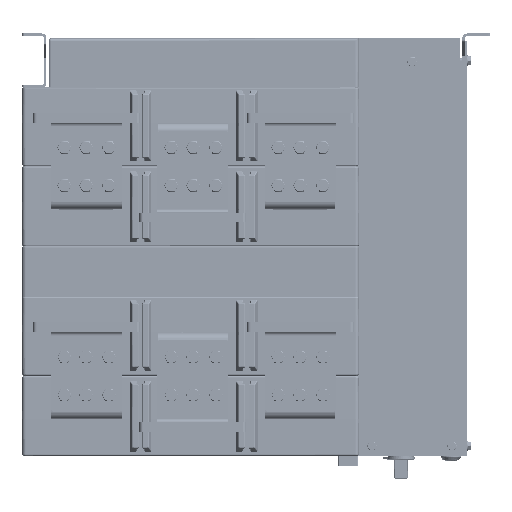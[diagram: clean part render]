
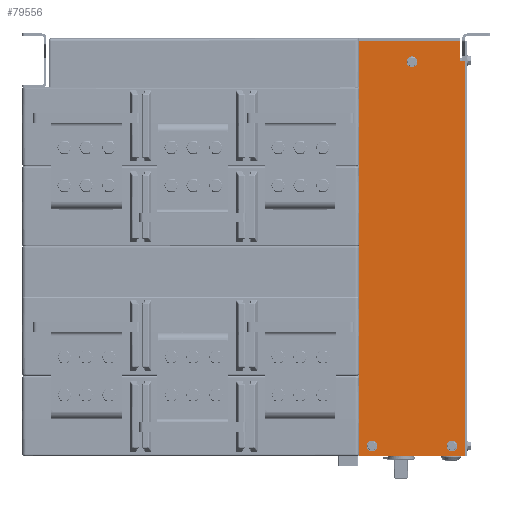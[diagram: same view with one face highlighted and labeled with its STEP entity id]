
A CAD part, left-side view. The second image highlights one B-rep face of the part: STEP entity #79556.
In plain terms, the highlighted planar face has unit normal (-1, 0, 0) as drawn and (0, 1, 0) by its records, which use the part's own axes.
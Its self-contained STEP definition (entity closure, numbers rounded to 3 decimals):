
#79261=DIRECTION('',(-1.,0.,0.));
#79262=VECTOR('',#79261,6.);
#79263=CARTESIAN_POINT('',(59.5,2.,-298.659));
#79264=LINE('',#79263,#79262);
#79269=DIRECTION('',(0.,0.,-1.));
#79270=VECTOR('',#79269,443.159);
#79271=CARTESIAN_POINT('',(59.5,2.,144.5));
#79272=LINE('',#79271,#79270);
#79277=DIRECTION('',(1.,0.,0.));
#79278=VECTOR('',#79277,119.);
#79279=CARTESIAN_POINT('',(-59.5,2.,144.5));
#79280=LINE('',#79279,#79278);
#79285=DIRECTION('',(0.,0.,1.));
#79286=VECTOR('',#79285,465.159);
#79287=CARTESIAN_POINT('',(-59.5,2.,-320.659));
#79288=LINE('',#79287,#79286);
#79293=DIRECTION('',(-1.,0.,0.));
#79294=VECTOR('',#79293,113.);
#79295=CARTESIAN_POINT('',(53.5,2.,-320.659));
#79296=LINE('',#79295,#79294);
#79297=DIRECTION('',(0.,0.,1.));
#79298=VECTOR('',#79297,22.);
#79299=CARTESIAN_POINT('',(53.5,2.,-320.659));
#79300=LINE('',#79299,#79298);
#79301=CARTESIAN_POINT('',(-45.,2.,133.5));
#79302=DIRECTION('',(0.,1.,0.));
#79303=DIRECTION('',(1.,0.,0.));
#79304=AXIS2_PLACEMENT_3D('',#79301,#79302,#79303);
#79306=CARTESIAN_POINT('',(-45.,2.,133.5));
#79307=DIRECTION('',(0.,1.,0.));
#79308=DIRECTION('',(-1.,0.,0.));
#79309=AXIS2_PLACEMENT_3D('',#79306,#79307,#79308);
#79311=CARTESIAN_POINT('',(45.,2.,133.5));
#79312=DIRECTION('',(0.,1.,0.));
#79313=DIRECTION('',(1.,0.,0.));
#79314=AXIS2_PLACEMENT_3D('',#79311,#79312,#79313);
#79316=CARTESIAN_POINT('',(45.,2.,133.5));
#79317=DIRECTION('',(0.,1.,0.));
#79318=DIRECTION('',(-1.,0.,0.));
#79319=AXIS2_PLACEMENT_3D('',#79316,#79317,#79318);
#79321=CARTESIAN_POINT('',(0.,2.,-297.659));
#79322=DIRECTION('',(0.,1.,0.));
#79323=DIRECTION('',(-1.,0.,0.));
#79324=AXIS2_PLACEMENT_3D('',#79321,#79322,#79323);
#79326=CARTESIAN_POINT('',(0.,2.,-297.659));
#79327=DIRECTION('',(0.,1.,0.));
#79328=DIRECTION('',(1.,0.,0.));
#79329=AXIS2_PLACEMENT_3D('',#79326,#79327,#79328);
#79379=CARTESIAN_POINT('',(53.5,2.,-298.659));
#79380=VERTEX_POINT('',#79379);
#79381=CARTESIAN_POINT('',(53.5,2.,-320.659));
#79382=VERTEX_POINT('',#79381);
#79383=CARTESIAN_POINT('',(59.5,2.,-298.659));
#79384=VERTEX_POINT('',#79383);
#79385=CARTESIAN_POINT('',(59.5,2.,144.5));
#79386=VERTEX_POINT('',#79385);
#79387=CARTESIAN_POINT('',(-59.5,2.,144.5));
#79388=VERTEX_POINT('',#79387);
#79389=CARTESIAN_POINT('',(-59.5,2.,-320.659));
#79390=VERTEX_POINT('',#79389);
#79391=CARTESIAN_POINT('',(-41.5,2.,133.5));
#79392=CARTESIAN_POINT('',(-48.5,2.,133.5));
#79393=VERTEX_POINT('',#79391);
#79394=VERTEX_POINT('',#79392);
#79395=CARTESIAN_POINT('',(48.5,2.,133.5));
#79396=CARTESIAN_POINT('',(41.5,2.,133.5));
#79397=VERTEX_POINT('',#79395);
#79398=VERTEX_POINT('',#79396);
#79399=CARTESIAN_POINT('',(-3.5,2.,-297.659));
#79400=CARTESIAN_POINT('',(3.5,2.,-297.659));
#79401=VERTEX_POINT('',#79399);
#79402=VERTEX_POINT('',#79400);
#79525=CARTESIAN_POINT('',(0.,2.,0.));
#79526=DIRECTION('',(0.,1.,0.));
#79527=DIRECTION('',(1.,0.,0.));
#79528=AXIS2_PLACEMENT_3D('',#79525,#79526,#79527);
#79529=PLANE('',#79528);
#79530=ORIENTED_EDGE('',*,*,#79449,.T.);
#79531=ORIENTED_EDGE('',*,*,#79464,.F.);
#79532=ORIENTED_EDGE('',*,*,#79479,.F.);
#79533=ORIENTED_EDGE('',*,*,#79492,.F.);
#79534=ORIENTED_EDGE('',*,*,#79506,.F.);
#79535=ORIENTED_EDGE('',*,*,#79518,.F.);
#79536=EDGE_LOOP('',(#79530,#79531,#79532,#79533,#79534,#79535));
#79537=FACE_OUTER_BOUND('',#79536,.F.);
#79539=ORIENTED_EDGE('',*,*,#79538,.T.);
#79541=ORIENTED_EDGE('',*,*,#79540,.T.);
#79542=EDGE_LOOP('',(#79539,#79541));
#79543=FACE_BOUND('',#79542,.F.);
#79545=ORIENTED_EDGE('',*,*,#79544,.T.);
#79547=ORIENTED_EDGE('',*,*,#79546,.T.);
#79548=EDGE_LOOP('',(#79545,#79547));
#79549=FACE_BOUND('',#79548,.F.);
#79551=ORIENTED_EDGE('',*,*,#79550,.T.);
#79553=ORIENTED_EDGE('',*,*,#79552,.T.);
#79554=EDGE_LOOP('',(#79551,#79553));
#79555=FACE_BOUND('',#79554,.F.);
#79305=CIRCLE('',#79304,3.5);
#79310=CIRCLE('',#79309,3.5);
#79315=CIRCLE('',#79314,3.5);
#79320=CIRCLE('',#79319,3.5);
#79325=CIRCLE('',#79324,3.5);
#79330=CIRCLE('',#79329,3.5);
#79449=EDGE_CURVE('',#79382,#79380,#79300,.T.);
#79464=EDGE_CURVE('',#79384,#79380,#79264,.T.);
#79479=EDGE_CURVE('',#79386,#79384,#79272,.T.);
#79492=EDGE_CURVE('',#79388,#79386,#79280,.T.);
#79506=EDGE_CURVE('',#79390,#79388,#79288,.T.);
#79518=EDGE_CURVE('',#79382,#79390,#79296,.T.);
#79538=EDGE_CURVE('',#79393,#79394,#79305,.T.);
#79540=EDGE_CURVE('',#79394,#79393,#79310,.T.);
#79544=EDGE_CURVE('',#79397,#79398,#79315,.T.);
#79546=EDGE_CURVE('',#79398,#79397,#79320,.T.);
#79550=EDGE_CURVE('',#79401,#79402,#79325,.T.);
#79552=EDGE_CURVE('',#79402,#79401,#79330,.T.);
#79556=ADVANCED_FACE('',(#79537,#79543,#79549,#79555),#79529,.T.);
